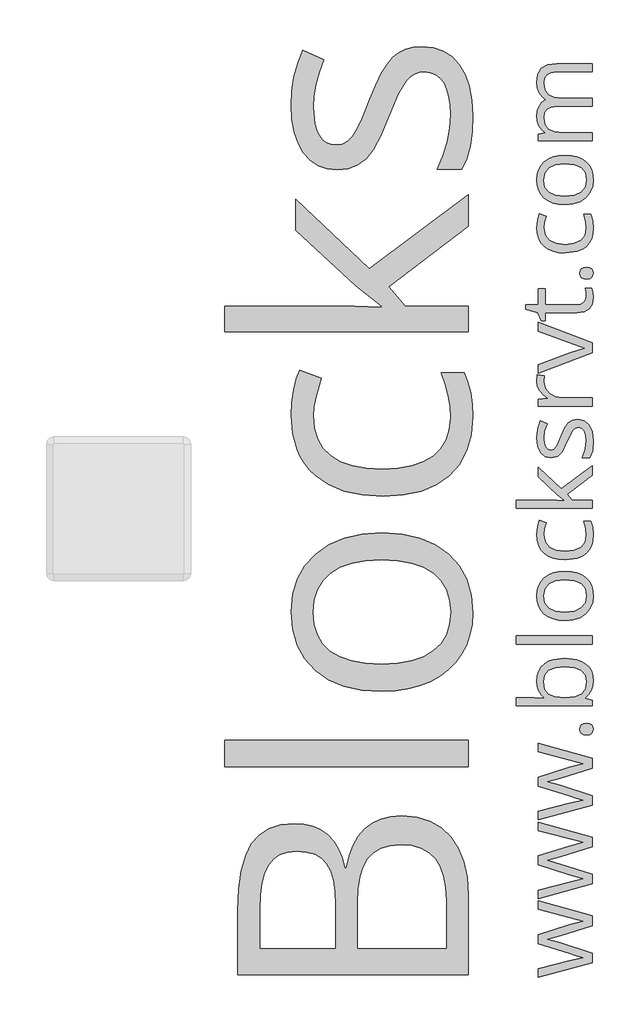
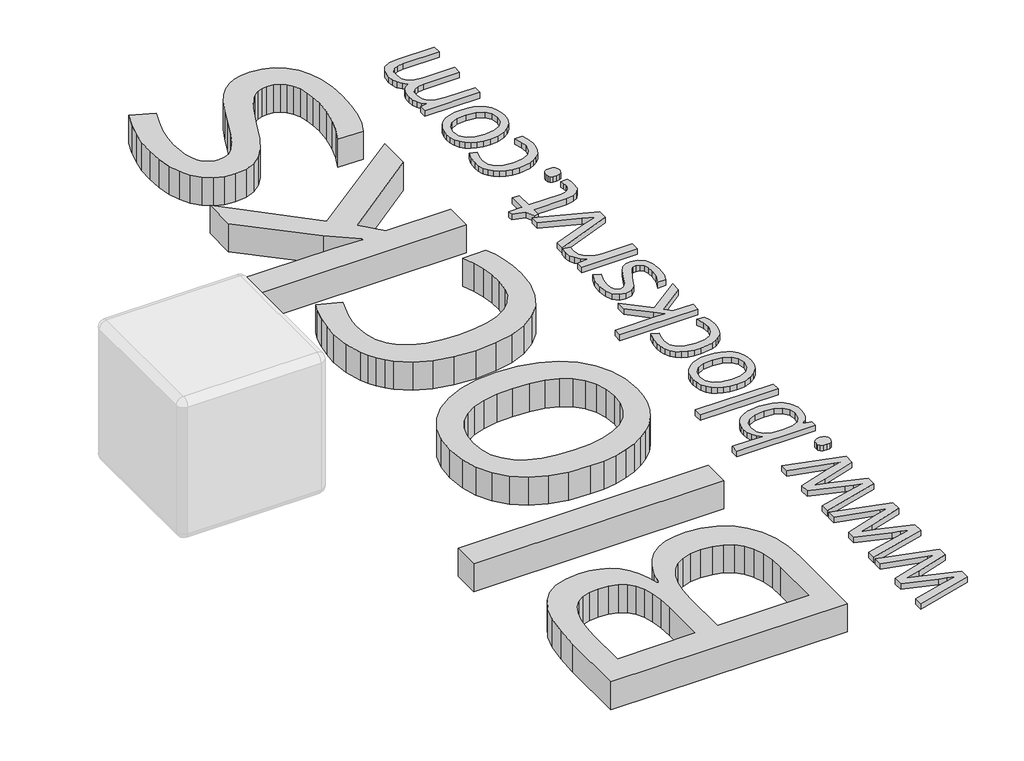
# One storey, part 9 of 9: 2 proxies.
"""IFC4 building model written with IfcOpenShell, lengths in millimetres."""

from ifc_helpers import new_model, si_unit, origin, origin_with_axes, place, context, project, spatial, polyline, outline, extrude, element, save

model = new_model("IFC4")

# Units and contexts
model_context = context("Model", 3, world=origin())
ifc_project = project(units=[si_unit("LENGTHUNIT", "METRE", prefix="MILLI")], contexts=[model_context])

# Site, building, storey
site = spatial("IfcSite", under=ifc_project)
building = spatial("IfcBuilding", under=site)
storey = spatial("IfcBuildingStorey", under=building, Name="PORTOBELLO - SHOWROOM", Elevation=0.0)

# Proxies
placement = place(None, origin())
element("IfcBuildingElementProxy", 1, Name="25mm OpenSans", ObjectType="25mm OpenSans", at=placement, inside=storey, context=model_context, shape_type="SweptSolid", body=[
    extrude(outline(polyline([(-13005.6451018, 19589.380901), (-13115.4567452, 19554.9007946), (-13161.1803646, 19542.6828438), (-13115.0819614, 19529.265585), (-13005.6451018, 19493.736084), (-13005.6451018, 19460.8300694), (-13192.7371576, 19409.4846935), (-13192.7371576, 19439.3174812), (-13085.3990872, 19467.0514799), (-13035.7027598, 19477.9951659), (-13060.8882289, 19485.4158844), (-13085.3990872, 19492.7616462), (-13192.7371576, 19527.2417527), (-13192.7371576, 19558.123935), (-13085.3241304, 19591.7795171), (-13036.0025868, 19604.8219922), (-13054.9666454, 19609.9190514), (-13192.7371576, 19645.6734226), (-13192.7371576, 19675.2063833), (-13005.6451018, 19623.1863967), (-13005.6451018, 19589.380901)])), origin_with_axes(), (0.0, 0.0, 1.0), 20.0),
    extrude(outline(polyline([(-13005.6451018, 19862.8231364), (-13115.4567452, 19828.34303), (-13161.1803646, 19816.1250792), (-13115.0819614, 19802.7078204), (-13005.6451018, 19767.1783194), (-13005.6451018, 19734.2723048), (-13192.7371576, 19682.9269289), (-13192.7371576, 19712.7597167), (-13085.3990872, 19740.4937153), (-13035.7027598, 19751.4374013), (-13060.8882289, 19758.8581198), (-13085.3990872, 19766.2038816), (-13192.7371576, 19800.6839881), (-13192.7371576, 19831.5661704), (-13085.3241304, 19865.2217525), (-13036.0025868, 19878.2642276), (-13054.9666454, 19883.3612868), (-13192.7371576, 19919.115658), (-13192.7371576, 19948.6486188), (-13005.6451018, 19896.6286321), (-13005.6451018, 19862.8231364)])), origin_with_axes(), (0.0, 0.0, 1.0), 20.0),
    extrude(outline(polyline([(-13005.6451018, 20136.2653719), (-13115.4567452, 20101.7852654), (-13161.1803646, 20089.5673147), (-13115.0819614, 20076.1500558), (-13005.6451018, 20040.6205549), (-13005.6451018, 20007.7145402), (-13192.7371576, 19956.3691643), (-13192.7371576, 19986.2019521), (-13085.3990872, 20013.9359507), (-13035.7027598, 20024.8796367), (-13060.8882289, 20032.3003553), (-13085.3990872, 20039.6461171), (-13192.7371576, 20074.1262235), (-13192.7371576, 20105.0084058), (-13085.3241304, 20138.663988), (-13036.0025868, 20151.706463), (-13054.9666454, 20156.8035222), (-13192.7371576, 20192.5578935), (-13192.7371576, 20222.0908542), (-13005.6451018, 20170.0708675), (-13005.6451018, 20136.2653719)])), origin_with_axes(), (0.0, 0.0, 1.0), 20.0),
    extrude(outline(polyline([(-13024.7590739, 20251.2490312), (-13035.168693, 20252.5514047), (-13042.7112163, 20256.4585255), (-13047.2929478, 20262.8017407), (-13048.8201916, 20271.4123977), (-13047.2929478, 20280.2760338), (-13042.7112163, 20286.9284456), (-13035.168693, 20291.0885454), (-13024.7590739, 20292.4752454), (-13014.5555859, 20291.0604367), (-13007.0318018, 20286.8160105), (-13002.3938527, 20280.1354899), (-13000.8478696, 20271.4123977), (-13006.4321477, 20256.9832228), (-13013.8060183, 20252.6825791), (-13024.7590739, 20251.2490312)])), origin_with_axes(), (0.0, 0.0, 1.0), 20.0),
    extrude(outline(polyline([(-13197.5343898, 20439.6153518), (-13195.9345316, 20457.1997376), (-13191.134957, 20472.6993887), (-13183.135666, 20486.1143051), (-13171.9366587, 20497.4444868), (-13157.8143379, 20506.4463244), (-13141.0451068, 20512.8762084), (-13099.5659135, 20518.0201155), (-13057.9461763, 20512.8293604), (-13041.0574829, 20506.3409165), (-13026.7829062, 20497.2570949), (-13015.4363277, 20485.8730381), (-13007.3316288, 20472.483888), (-13002.4688094, 20457.0896448), (-13000.8478696, 20439.6903085), (-13002.5625054, 20422.0473628), (-13007.7064125, 20405.997248), (-13016.4107655, 20391.9897048), (-13028.8067385, 20380.4744736), (-13028.8067385, 20378.3756845), (-13005.6451018, 20372.3791442), (-13005.6451018, 20352.0658641), (-13269.4928729, 20352.0658641), (-13269.4928729, 20380.3995168), (-13206.903984, 20380.3995168), (-13169.1257804, 20379.0502952), (-13181.554547, 20391.6055514), (-13190.4322375, 20405.2102021), (-13195.7588518, 20421.2134689), (-13197.5343898, 20439.6153518)]), holes=[polyline([(-13173.5482288, 20435.6426439), (-13169.3131723, 20410.3728485), (-13156.6080026, 20393.3295567), (-13133.8773672, 20383.6320268), (-13099.5659135, 20380.3995168), (-13065.1139158, 20383.7257227), (-13042.1115622, 20393.7043405), (-13029.1534135, 20411.0099809), (-13024.8340306, 20436.3172546), (-13029.6781108, 20459.394565), (-13044.2103513, 20475.7070284), (-13067.812359, 20485.4045583), (-13099.8657405, 20488.6370683), (-13132.312645, 20485.4045583), (-13155.2962595, 20475.7070284), (-13168.9852365, 20459.2259123), (-13173.5482288, 20435.6426439)])]), origin_with_axes(), (0.0, 0.0, 1.0), 20.0),
    extrude(outline(polyline([(-13005.6451018, 20595.300528), (-13005.6451018, 20566.9668753), (-13269.4928729, 20566.9668753), (-13269.4928729, 20595.300528), (-13005.6451018, 20595.300528)])), origin_with_axes(), (0.0, 0.0, 1.0), 20.0),
    extrude(outline(polyline([(-13099.3410432, 20820.2457442), (-13077.4138506, 20818.8051691), (-13058.0305027, 20814.4834438), (-13041.1909996, 20807.2805683), (-13026.8953413, 20797.1965426), (-13015.4995725, 20784.5780417), (-13007.3597376, 20769.7717405), (-13002.4758366, 20752.7776392), (-13000.8478696, 20733.5957376), (-13003.8367702, 20709.900034), (-13012.8034718, 20689.0339478), (-13027.3544515, 20671.8032642), (-13047.0961863, 20659.0137682), (-13071.3259568, 20651.0870915), (-13099.3410432, 20648.444866), (-13121.2588663, 20649.8737291), (-13140.6141054, 20654.1603184), (-13157.4067605, 20661.304634), (-13171.6368316, 20671.3066757), (-13182.9670134, 20683.8478775), (-13191.0600003, 20698.609673), (-13195.9157925, 20715.5920624), (-13197.5343898, 20734.7950456), (-13195.8783141, 20753.3913476), (-13190.9100868, 20769.9778716), (-13182.629708, 20784.5546177), (-13171.0371776, 20797.1215858), (-13156.6197146, 20807.2384051), (-13139.8645379, 20814.4647046), (-13120.7716474, 20818.8004843), (-13099.3410432, 20820.2457442)]), holes=[polyline([(-13099.5659135, 20677.90287), (-13067.4094664, 20681.4820549), (-13043.9480027, 20692.2196098), (-13029.6125236, 20709.8906644), (-13024.8340306, 20734.2703483), (-13029.5937845, 20758.6687715), (-13043.8730459, 20776.3960436), (-13067.3157705, 20787.189816), (-13099.5659135, 20790.7877402), (-13131.4881207, 20787.189816), (-13154.6966054, 20776.3960436), (-13168.835323, 20758.5750755), (-13173.5482288, 20733.8955646), (-13168.9009101, 20709.5627286), (-13154.9589541, 20692.0322179), (-13131.8160565, 20681.435207), (-13099.5659135, 20677.90287)])]), origin_with_axes(), (0.0, 0.0, 1.0), 20.0),
    extrude(outline(polyline([(-13000.8478696, 20945.6483922), (-13002.4336734, 20926.3048651), (-13007.1910849, 20909.2756277), (-13015.1201039, 20894.5606801), (-13026.2207306, 20882.1600223), (-13040.2212466, 20872.3219484), (-13056.8499338, 20865.2947528), (-13097.9918217, 20859.6729963), (-13120.4390269, 20861.099517), (-13140.1831041, 20865.3790792), (-13157.2240535, 20872.5116827), (-13171.5618749, 20882.4973276), (-13182.9248502, 20895.1205134), (-13191.0412611, 20910.1657391), (-13195.9111077, 20927.633005), (-13197.5343898, 20947.522311), (-13194.76099, 20974.7690908), (-13188.2397525, 20996.094287), (-13164.7782887, 20987.3243469), (-13171.0371776, 20966.5988047), (-13173.5482288, 20946.7727435), (-13168.858747, 20921.5544808), (-13154.7903014, 20903.5414361), (-13131.342892, 20892.7336092), (-13098.516519, 20889.1310003), (-13067.0534218, 20892.6445981), (-13043.8730459, 20903.1853915), (-13029.5937845, 20920.6222062), (-13024.8340306, 20944.8238679), (-13027.363821, 20968.7912897), (-13034.9531923, 20993.3208872), (-13010.2924205, 20993.3208872), (-13003.2090074, 20971.9207341), (-13000.8478696, 20945.6483922)])), origin_with_axes(), (0.0, 0.0, 1.0), 20.0),
    extrude(outline(polyline([(-13099.4909567, 21064.9045864), (-13127.3748689, 21087.7663961), (-13192.7371576, 21147.7317986), (-13192.7371576, 21181.0875537), (-13112.9831723, 21105.8309736), (-13005.6451018, 21186.3345265), (-13005.6451018, 21152.2292038), (-13091.9952814, 21086.6420448), (-13074.0056607, 21065.6541539), (-13005.6451018, 21065.6541539), (-13005.6451018, 21037.6203283), (-13269.4928729, 21037.6203283), (-13269.4928729, 21065.6541539), (-13128.4992202, 21065.6541539), (-13099.4909567, 21064.9045864)])), origin_with_axes(), (0.0, 0.0, 1.0), 20.0),
    extrude(outline(polyline([(-13056.0909967, 21346.5920647), (-13032.6014242, 21341.6917669), (-13015.2020879, 21326.9908737), (-13004.4364242, 21303.4450836), (-13000.8478696, 21272.0100953), (-13003.8086614, 21238.7105577), (-13012.6910366, 21213.6187846), (-13039.2257272, 21213.6187846), (-13028.6943034, 21242.7769616), (-13024.8340306, 21272.7596628), (-13026.6142535, 21292.5763544), (-13031.9549222, 21307.2022909), (-13040.9497326, 21316.22521), (-13053.6923806, 21319.2328498), (-13063.980195, 21316.8436033), (-13072.6564391, 21309.6758637), (-13091.2457139, 21272.4598358), (-13108.4857671, 21235.056416), (-13125.1636447, 21218.5284519), (-13147.5382355, 21213.0940873), (-13168.2637777, 21217.7788844), (-13184.117131, 21231.8332756), (-13194.1800751, 21254.0579529), (-13197.5343898, 21283.2536083), (-13194.4236846, 21313.2925271), (-13185.0915688, 21342.6943135), (-13161.9299321, 21332.5001951), (-13170.6436547, 21305.4408072), (-13173.5482288, 21281.0798624), (-13171.9460282, 21263.2588944), (-13167.1394265, 21250.4225504), (-13159.5032072, 21242.6645264), (-13149.4121543, 21240.0785185), (-13136.4071577, 21243.9387912), (-13126.2130392, 21256.4190906), (-13112.158648, 21289.4750188), (-13099.8282621, 21317.5556924), (-13087.4229195, 21334.786376), (-13073.3685283, 21343.6406425), (-13056.0909967, 21346.5920647)])), origin_with_axes(), (0.0, 0.0, 1.0), 20.0),
    extrude(outline(polyline([(-13197.5343898, 21479.0406474), (-13195.660471, 21501.6775869), (-13170.9996992, 21497.704879), (-13173.5482288, 21477.0168151), (-13168.8540622, 21455.6822492), (-13154.7715622, 21437.7019981), (-13133.6806058, 21425.4746777), (-13107.9610699, 21421.3989043), (-13005.6451018, 21421.3989043), (-13005.6451018, 21393.0652516), (-13192.7371576, 21393.0652516), (-13192.7371576, 21416.4517586), (-13159.1565322, 21419.674899), (-13175.4783652, 21432.6611564), (-13187.5651417, 21446.4344598), (-13195.0420778, 21462.0067253), (-13197.5343898, 21479.0406474)])), origin_with_axes(), (0.0, 0.0, 1.0), 20.0),
    extrude(outline(polyline([(-13005.6451018, 21578.6581724), (-13192.7371576, 21506.6996893), (-13192.7371576, 21537.5069149), (-13081.801163, 21578.3583453), (-13031.2803114, 21594.549004), (-13068.758688, 21607.9662628), (-13192.7371576, 21653.3900552), (-13192.7371576, 21684.1972808), (-13005.6451018, 21612.2387978), (-13005.6451018, 21578.6581724)])), origin_with_axes(), (0.0, 0.0, 1.0), 20.0),
    extrude(outline(polyline([(-13024.8340306, 21775.5695628), (-13025.9583819, 21790.2610864), (-13028.2820413, 21801.5045994), (-13006.0948423, 21801.5045994), (-13002.3470047, 21787.7875136), (-13000.8478696, 21771.5218982), (-13004.4083154, 21747.516998), (-13015.0896527, 21730.3706407), (-13032.8918816, 21720.0828263), (-13057.815002, 21716.6535549), (-13168.7509966, 21716.6535549), (-13168.7509966, 21689.5192102), (-13182.7679095, 21689.5192102), (-13194.9109035, 21716.5036414), (-13235.9122474, 21728.5716786), (-13235.9122474, 21745.0621643), (-13192.7371576, 21745.0621643), (-13192.7371576, 21800.1553779), (-13168.7509966, 21800.1553779), (-13168.7509966, 21745.0621643), (-13059.5390073, 21745.0621643), (-13044.7069398, 21747.0953662), (-13033.7913626, 21753.194972), (-13027.0733636, 21762.8550236), (-13024.8340306, 21775.5695628)])), origin_with_axes(), (0.0, 0.0, 1.0), 20.0),
    extrude(outline(polyline([(-13024.7590739, 21834.3356573), (-13035.168693, 21835.6380309), (-13042.7112163, 21839.5451516), (-13047.2929478, 21845.8883669), (-13048.8201916, 21854.4990239), (-13047.2929478, 21863.3626599), (-13042.7112163, 21870.0150718), (-13035.168693, 21874.1751716), (-13024.7590739, 21875.5618715), (-13014.5555859, 21874.1470628), (-13007.0318018, 21869.9026366), (-13002.3938527, 21863.222116), (-13000.8478696, 21854.4990239), (-13006.4321477, 21840.0698489), (-13013.8060183, 21835.7692052), (-13024.7590739, 21834.3356573)])), origin_with_axes(), (0.0, 0.0, 1.0), 20.0),
    extrude(outline(polyline([(-13000.8478696, 22010.6339407), (-13002.4336734, 21991.2904135), (-13007.1910849, 21974.2611762), (-13015.1201039, 21959.5462286), (-13026.2207306, 21947.1455707), (-13040.2212466, 21937.3074969), (-13056.8499338, 21930.2803013), (-13097.9918217, 21924.6585448), (-13120.4390269, 21926.0850655), (-13140.1831041, 21930.3646276), (-13157.2240534, 21937.4972312), (-13171.5618749, 21947.4828761), (-13182.9248502, 21960.1060618), (-13191.0412611, 21975.1512876), (-13195.9111077, 21992.6185535), (-13197.5343898, 22012.5078595), (-13194.76099, 22039.7546392), (-13188.2397525, 22061.0798355), (-13164.7782887, 22052.3098954), (-13171.0371776, 22031.5843532), (-13173.5482288, 22011.7582919), (-13168.858747, 21986.5400293), (-13154.7903014, 21968.5269846), (-13131.342892, 21957.7191577), (-13098.516519, 21954.1165488), (-13067.0534218, 21957.6301466), (-13043.8730459, 21968.17094), (-13029.5937845, 21985.6077547), (-13024.8340306, 22009.8094164), (-13027.363821, 22033.7768382), (-13034.9531923, 22058.3064356), (-13010.2924205, 22058.3064356), (-13003.2090074, 22036.9062826), (-13000.8478696, 22010.6339407)])), origin_with_axes(), (0.0, 0.0, 1.0), 20.0),
    extrude(outline(polyline([(-13099.3410432, 22264.2126365), (-13077.4138506, 22262.7720614), (-13058.0305027, 22258.4503361), (-13041.1909996, 22251.2474606), (-13026.8953413, 22241.1634349), (-13015.4995725, 22228.544934), (-13007.3597376, 22213.7386329), (-13002.4758366, 22196.7445315), (-13000.8478696, 22177.5626299), (-13003.8367702, 22153.8669263), (-13012.8034718, 22133.0008401), (-13027.3544515, 22115.7701565), (-13047.0961863, 22102.9806605), (-13071.3259568, 22095.0539839), (-13099.3410432, 22092.4117583), (-13121.2588663, 22093.8406214), (-13140.6141054, 22098.1272107), (-13157.4067605, 22105.2715263), (-13171.6368316, 22115.273568), (-13182.9670134, 22127.8147698), (-13191.0600003, 22142.5765653), (-13195.9157925, 22159.5589547), (-13197.5343898, 22178.7619379), (-13195.8783141, 22197.3582399), (-13190.9100868, 22213.9447639), (-13182.629708, 22228.52151), (-13171.0371776, 22241.0884782), (-13156.6197146, 22251.2052974), (-13139.8645379, 22258.4315969), (-13120.7716474, 22262.7673766), (-13099.3410432, 22264.2126365)]), holes=[polyline([(-13099.5659135, 22121.8697623), (-13067.4094664, 22125.4489473), (-13043.9480027, 22136.1865021), (-13029.6125236, 22153.8575567), (-13024.8340306, 22178.2372407), (-13029.5937845, 22202.6356638), (-13043.8730459, 22220.3629359), (-13067.3157705, 22231.1567084), (-13099.5659135, 22234.7546325), (-13131.4881207, 22231.1567084), (-13154.6966054, 22220.3629359), (-13168.835323, 22202.5419679), (-13173.5482288, 22177.8624569), (-13168.9009101, 22153.5296209), (-13154.9589541, 22135.9991103), (-13131.8160565, 22125.4020993), (-13099.5659135, 22121.8697623)])]), origin_with_axes(), (0.0, 0.0, 1.0), 20.0),
    extrude(outline(polyline([(-13005.6451018, 22553.2458766), (-13128.4242635, 22553.2458766), (-13148.1659983, 22550.8472605), (-13162.2672375, 22543.6514122), (-13170.727981, 22531.395983), (-13173.5482288, 22513.8186244), (-13169.7160648, 22490.7506836), (-13158.2195728, 22474.6162425), (-13138.7589258, 22465.1154741), (-13111.0342967, 22461.9485513), (-13005.6451018, 22461.9485513), (-13005.6451018, 22433.5399418), (-13128.4242635, 22433.5399418), (-13148.1659983, 22431.1413257), (-13162.2672375, 22423.9454774), (-13170.727981, 22411.6525699), (-13173.5482288, 22393.9627762), (-13169.5193034, 22370.7824003), (-13157.4325269, 22354.7603943), (-13136.1822874, 22345.4282785), (-13104.6629727, 22342.3175733), (-13005.6451018, 22342.3175733), (-13005.6451018, 22313.9839206), (-13192.7371576, 22313.9839206), (-13192.7371576, 22337.0706005), (-13168.7509966, 22341.6429625), (-13180.8284035, 22352.7271923), (-13189.9262794, 22365.7415586), (-13195.6323622, 22381.2669761), (-13197.5343898, 22398.5351381), (-13195.5667751, 22418.6329175), (-13189.6639308, 22434.9266417), (-13179.8258569, 22447.4163107), (-13166.0525535, 22456.1019245), (-13179.0762894, 22467.7295908), (-13189.0642767, 22481.7746125), (-13195.4168616, 22498.8179042), (-13197.5343898, 22518.0911593), (-13193.4305076, 22545.9469627), (-13181.1188609, 22565.8011327), (-13159.7749255, 22577.6911477), (-13128.574177, 22581.654486), (-13005.6451018, 22581.654486), (-13005.6451018, 22553.2458766)])), origin_with_axes(), (0.0, 0.0, 1.0), 20.0),
])
element("IfcBuildingElementProxy", 2, Name="80mm OpenSans", ObjectType="80mm OpenSans", at=placement, inside=storey, context=model_context, shape_type="SweptSolid", body=[
    extrude(outline(polyline([(-14235.0285088, 19418.5267469), (-14235.0285088, 19643.5098675), (-14232.0915297, 19717.3399654), (-14223.2805921, 19780.1883151), (-14208.5956963, 19832.0549166), (-14188.0368421, 19872.9397699), (-14161.1383193, 19903.9095016), (-14127.4344176, 19926.0307386), (-14086.9251371, 19939.3034808), (-14039.6104778, 19943.7277282), (-14005.9516449, 19941.2564593), (-13975.4025546, 19933.8426525), (-13947.963207, 19921.4863079), (-13923.6336021, 19904.1874255), (-13902.8494042, 19882.156326), (-13886.0462778, 19855.6033302), (-13873.224223, 19824.528438), (-13864.3832396, 19788.9316495), (-13859.0951748, 19788.9316495), (-13849.1800533, 19831.4652673), (-13835.1787, 19868.3277361), (-13817.0911147, 19899.5190558), (-13794.9172975, 19925.0392265), (-13768.6572484, 19944.8882481), (-13738.3109675, 19959.0661207), (-13703.8784546, 19967.5728443), (-13665.3597099, 19970.4084188), (-13614.1240707, 19965.8940339), (-13568.8224815, 19952.3508793), (-13529.4549422, 19929.778955), (-13496.021453, 19898.178261), (-13469.3632968, 19858.4802177), (-13450.3217566, 19811.6162457), (-13438.8968325, 19757.586345), (-13435.0885245, 19696.3905155), (-13435.0885245, 19418.5267469), (-14235.0285088, 19418.5267469)]), holes=[polyline([(-13896.5923616, 19511.5486141), (-13896.5923616, 19663.4602938), (-13898.5228057, 19708.942158), (-13904.314138, 19747.5585516), (-13913.9663586, 19779.3094748), (-13927.4794674, 19804.1949275), (-13945.5595412, 19822.9660552), (-13968.9126569, 19836.3740036), (-13997.5388145, 19844.4187726), (-14031.438014, 19847.1003623), (-14062.6406009, 19844.110803), (-14089.1860853, 19835.1421249), (-14111.0744672, 19820.1943281), (-14128.3057465, 19799.2674125), (-14141.3456336, 19771.8355764), (-14150.6598386, 19737.3730177), (-14156.2483616, 19695.8797365), (-14158.1112026, 19647.3557328), (-14158.1112026, 19511.5486141), (-13896.5923616, 19511.5486141)]), polyline([(-13819.6750554, 19511.5486141), (-13512.0058307, 19511.5486141), (-13512.0058307, 19677.161189), (-13514.417008, 19722.2674803), (-13521.6505398, 19761.4397217), (-13533.7064261, 19794.6779131), (-13550.5846671, 19821.9820545), (-13572.5857208, 19843.2770314), (-13600.0100455, 19858.4877291), (-13632.8576412, 19867.6141478), (-13671.1285079, 19870.6562873), (-13706.8229453, 19867.5465447), (-13737.4696844, 19858.2173167), (-13763.0687254, 19842.6686035), (-13783.6200681, 19820.9004049), (-13799.3941251, 19792.7925377), (-13810.6613086, 19758.2248187), (-13817.4216187, 19717.1972478), (-13819.6750554, 19669.7098249), (-13819.6750554, 19511.5486141)])]), origin_with_axes(), (0.0, 0.0, 1.0), 100.0),
    extrude(outline(polyline([(-13435.0885245, 20232.1676264), (-13435.0885245, 20141.3090585), (-14281.1788925, 20141.3090585), (-14281.1788925, 20232.1676264), (-13435.0885245, 20232.1676264)])), origin_with_axes(), (0.0, 0.0, 1.0), 100.0),
    extrude(outline(polyline([(-13735.5467518, 20953.5077385), (-13665.2320151, 20948.8881932), (-13603.0747194, 20935.0295575), (-13549.0748645, 20911.9318313), (-13503.2324504, 20879.5950146), (-13466.6892185, 20839.1308028), (-13440.5869101, 20791.6508914), (-13424.925525, 20737.1552805), (-13419.7050633, 20675.6439699), (-13422.1012176, 20636.5167972), (-13429.2896807, 20599.6580842), (-13441.2704525, 20565.0678308), (-13458.0435331, 20532.746037), (-13479.2934412, 20503.338688), (-13504.7046958, 20477.491769), (-13534.2772968, 20455.20528), (-13568.0112442, 20436.479221), (-13605.343179, 20421.6516075), (-13645.7097418, 20411.0604549), (-13689.1109328, 20404.7057634), (-13735.5467518, 20402.5875329), (-13805.8314426, 20407.1695209), (-13867.8986009, 20420.9154848), (-13921.7482267, 20443.8254246), (-13967.38032, 20475.8993404), (-14003.7132311, 20516.1156741), (-14029.6653105, 20563.4528678), (-14045.2365581, 20617.9109215), (-14050.426974, 20679.4898352), (-14045.1163748, 20739.1232819), (-14029.1845773, 20792.3118995), (-14002.6315815, 20839.0556883), (-13965.4573873, 20879.354648), (-13919.2243776, 20911.7966251), (-13865.4949351, 20934.9694659), (-13804.2690598, 20948.8731703), (-13735.5467518, 20953.5077385)]), holes=[polyline([(-13736.2678515, 20497.0515996), (-13681.2239043, 20499.9209757), (-13633.1505879, 20508.5291039), (-13592.0479024, 20522.8759842), (-13557.9158478, 20542.9616167), (-13531.099951, 20568.6057264), (-13511.945739, 20599.6280384), (-13500.4532118, 20636.0285526), (-13496.6223694, 20677.8072691), (-13500.4381889, 20719.6010085), (-13511.8856474, 20756.0465915), (-13530.9647448, 20787.144018), (-13557.6754812, 20812.8932881), (-13591.7324213, 20833.084081), (-13632.8501297, 20847.5060759), (-13681.0286064, 20856.1592728), (-13736.2678515, 20859.0436718), (-13790.9437374, 20856.1592728), (-13838.6339696, 20847.5060759), (-13879.3385479, 20833.084081), (-13913.0574725, 20812.8932881), (-13939.5053079, 20787.0689035), (-13958.396619, 20755.7461333), (-13969.7314056, 20718.9249775), (-13973.5096678, 20676.6054362), (-13969.7839858, 20634.864277), (-13958.6069397, 20598.5764346), (-13939.9785296, 20567.741909), (-13913.8987555, 20542.3607003), (-13880.4427319, 20522.5379687), (-13839.6855734, 20508.3788748), (-13791.6272799, 20499.8834184), (-13736.2678515, 20497.0515996)])]), origin_with_axes(), (0.0, 0.0, 1.0), 100.0),
    extrude(outline(polyline([(-13419.7050633, 21355.6410299), (-13424.7903188, 21293.6114289), (-13440.0460852, 21239.0031461), (-13465.4723627, 21191.8161815), (-13501.0691512, 21152.0505351), (-13545.9651218, 21120.5024212), (-13599.2889457, 21097.9680542), (-13661.0406229, 21084.4474339), (-13731.2201533, 21079.9405605), (-13803.2024331, 21084.515037), (-13866.5164931, 21098.2384666), (-13921.1623331, 21121.1108491), (-13967.1399534, 21153.1321847), (-13986.6603488, 21172.4009464), (-14003.5780249, 21193.6114194), (-14017.8929816, 21216.7636036), (-14029.6052188, 21241.8574992), (-14045.2215352, 21297.8704242), (-14050.426974, 21361.6501944), (-14048.2035831, 21405.3668665), (-14041.5334105, 21449.0234469), (-14031.8586555, 21487.9327874), (-14020.6215178, 21517.4077395), (-13945.3867777, 21489.2848494), (-13965.4573873, 21422.8234895), (-13971.4965977, 21388.9618473), (-13973.5096678, 21359.2465286), (-13969.7501842, 21315.924208), (-13958.4717335, 21278.3781967), (-13939.6743157, 21246.6084949), (-13913.3579307, 21220.6151025), (-13879.5225786, 21200.3980196), (-13838.1682593, 21185.957246), (-13789.2949729, 21177.2927819), (-13732.9027194, 21174.4046272), (-13679.1357196, 21177.2214231), (-13632.0088467, 21185.6718107), (-13591.5221005, 21199.7557901), (-13557.6754812, 21219.4733613), (-13530.9647448, 21244.7193638), (-13511.8856474, 21275.3886374), (-13500.4381889, 21311.4811819), (-13496.6223694, 21352.9969975), (-13498.6504625, 21391.2002611), (-13504.7347416, 21429.854212), (-13514.8752068, 21468.9588503), (-13529.071858, 21508.5141759), (-13449.9912526, 21508.5141759), (-13436.7410447, 21476.1548249), (-13427.2766106, 21439.8895168), (-13421.5979501, 21399.7182518), (-13419.7050633, 21355.6410299)])), origin_with_axes(), (0.0, 0.0, 1.0), 100.0),
    extrude(outline(polyline([(-13736.0274849, 21740.2275608), (-13825.4438534, 21811.376069), (-14035.0435127, 22003.6693345), (-14035.0435127, 22110.6324634), (-13779.2934697, 21869.3044153), (-13435.0885245, 22127.4581241), (-13435.0885245, 22018.0913294), (-13711.9908268, 21807.7705703), (-13654.3028471, 21740.4679274), (-13435.0885245, 21740.4679274), (-13435.0885245, 21650.5708258), (-14281.1788925, 21650.5708258), (-14281.1788925, 21740.4679274), (-13829.0493521, 21740.4679274), (-13736.0274849, 21735.9009623), (-13736.0274849, 21740.2275608)])), origin_with_axes(), (0.0, 0.0, 1.0), 100.0),
    extrude(outline(polyline([(-13596.8552341, 22641.3618761), (-13556.7515722, 22637.4333848), (-13521.5303565, 22625.6479108), (-13491.191587, 22606.0054542), (-13465.7352637, 22578.5060149), (-13445.597051, 22543.9157615), (-13431.2126134, 22503.0008624), (-13422.5819508, 22455.7613176), (-13419.7050633, 22402.1971272), (-13422.0786833, 22345.5156826), (-13429.1995432, 22295.4142732), (-13441.0676432, 22251.892899), (-13457.6829832, 22214.9515599), (-13542.7727532, 22214.9515599), (-13523.6335641, 22260.0803857), (-13509.0012484, 22308.4541603), (-13499.7170892, 22357.488943), (-13496.6223694, 22404.600793), (-13498.049546, 22438.4549238), (-13502.3310758, 22468.1477081), (-13509.4669587, 22493.6791459), (-13519.4571947, 22515.0492373), (-13532.3768985, 22531.9274783), (-13548.3011845, 22543.9833646), (-13567.2300529, 22551.2168965), (-13589.1635034, 22553.6280737), (-13606.3046453, 22551.7126525), (-13622.1538168, 22545.9663889), (-13636.7110179, 22536.3892829), (-13649.9762487, 22522.9813345), (-13677.4982223, 22477.822463), (-13709.5871609, 22403.6393267), (-13739.2724338, 22331.4692605), (-13764.8714748, 22283.6964023), (-13790.0198284, 22252.6590675), (-13818.3530392, 22230.695571), (-13851.2532151, 22217.6256382), (-13890.1024639, 22213.2689939), (-13925.2861223, 22217.0247217), (-13956.5638238, 22228.2919052), (-13983.9355683, 22247.0705444), (-14007.4013558, 22273.3606393), (-14026.2250638, 22306.2007236), (-14039.6705694, 22344.6293308), (-14047.7378728, 22388.6464611), (-14050.426974, 22438.2521145), (-14047.9331707, 22486.6709578), (-14040.4517608, 22534.5790221), (-14027.9827444, 22581.9763075), (-14010.5261214, 22628.8628138), (-13936.2528476, 22596.1729587), (-13952.5527064, 22551.7051411), (-13964.1954627, 22509.4006227), (-13971.1811165, 22469.2594035), (-13973.5096678, 22431.2814836), (-13968.3718321, 22374.1343287), (-13961.9495375, 22351.554893), (-13952.958325, 22332.9715516), (-13941.698653, 22318.4594192), (-13928.4709795, 22308.0936104), (-13913.2753047, 22301.8741251), (-13896.1116284, 22299.8009633), (-13873.4270323, 22302.8956831), (-13854.4080265, 22312.1798423), (-13837.6424574, 22328.3745407), (-13821.7181714, 22352.2008782), (-13802.6991656, 22392.5223723), (-13776.6494373, 22458.2025407), (-13756.9093317, 22507.5753389), (-13737.1091346, 22548.2498715), (-13717.2488457, 22580.2261383), (-13697.3284653, 22603.5041395), (-13676.0860686, 22620.0668992), (-13652.2597312, 22631.8974419), (-13625.849453, 22638.9957676), (-13596.8552341, 22641.3618761)])), origin_with_axes(), (0.0, 0.0, 1.0), 100.0),
])

save(model, "model.ifc")
